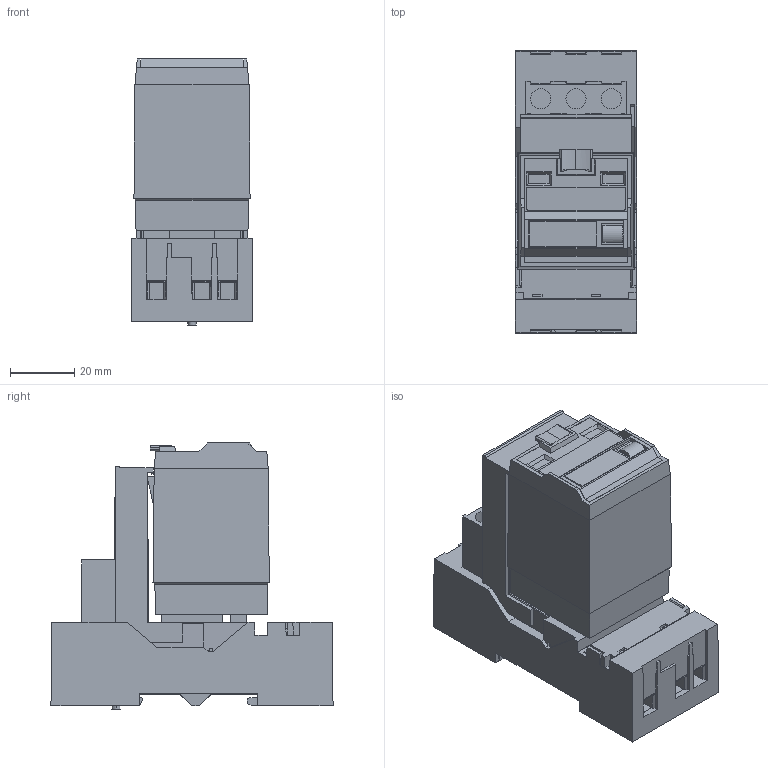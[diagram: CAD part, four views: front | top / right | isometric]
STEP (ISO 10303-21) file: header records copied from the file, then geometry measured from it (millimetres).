
FILE_DESCRIPTION (( 'STEP AP214' ), '1' );
FILE_NAME ('C5_plus_S5-M.STEP', '2024-04-04T07:48:02', ( '' ), ( '' ), 'SwSTEP 2.0', 'SolidWorks 2022', '' );
FILE_SCHEMA (( 'AUTOMOTIVE_DESIGN' ));
Length unit declared in the file: millimetre
Products named in the file (1): C5_plus_S5-M
Bounding box: 38 x 88 x 83 mm (x, y, z)
Volume: 159709.4 mm3; surface area: 40049.2 mm2
Topology: 1 solids, 30 shells, 1099 faces, 3017 edges, 1982 vertices
Faces by surface type: plane 1021, cylinder 64, cone 8, sphere 4, torus 2
Entity records: 45161 total; most frequent: CARTESIAN_POINT 6324, ORIENTED_EDGE 6034, DIRECTION 5265, EDGE_CURVE 3017, LINE 2835, VECTOR 2835, VERTEX_POINT 1982, AXIS2_PLACEMENT_3D 1215
